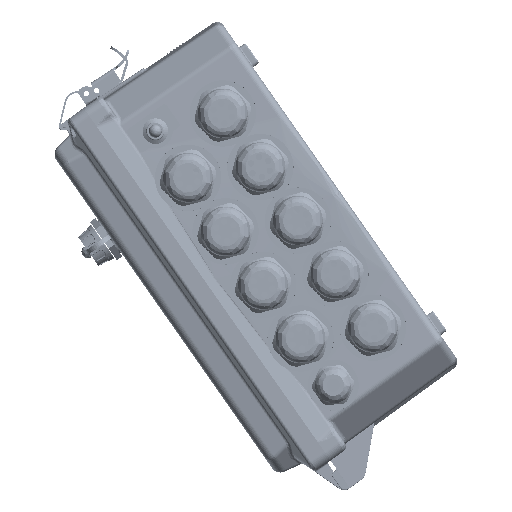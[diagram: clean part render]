
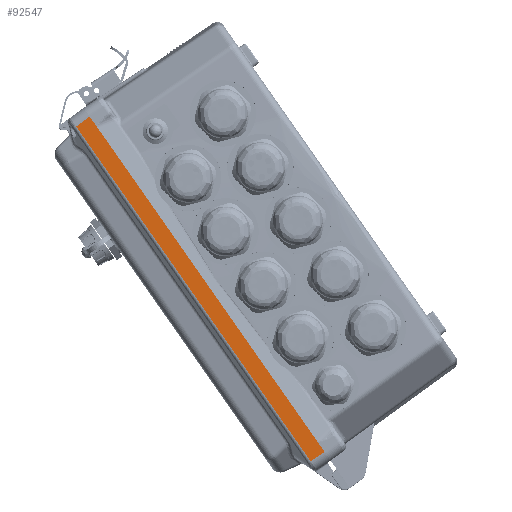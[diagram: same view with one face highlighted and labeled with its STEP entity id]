
A CAD part, left-side view. The second image highlights one B-rep face of the part: STEP entity #92547.
In plain terms, the highlighted planar face has unit normal (-1, 0.021, -0.015).
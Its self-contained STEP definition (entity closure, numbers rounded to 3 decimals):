
#17024 = CARTESIAN_POINT ( 'NONE',  ( -242.9, 203.151, 208.966 ) ) ;
#26754 = DIRECTION ( 'NONE',  ( 0., 0.574, 0.819 ) ) ;
#26879 = LINE ( 'NONE', #462913, #38286 ) ;
#38286 = VECTOR ( 'NONE', #26754, 1000. ) ;
#58011 = VECTOR ( 'NONE', #300720, 1000. ) ;
#84286 = ORIENTED_EDGE ( 'NONE', *, *, #133927, .T. ) ;
#92547 = ADVANCED_FACE ( 'NONE', ( #332541 ), #353717, .T. ) ;
#98618 = ORIENTED_EDGE ( 'NONE', *, *, #378812, .F. ) ;
#119289 = CARTESIAN_POINT ( 'NONE',  ( -242.9, 203.151, 208.966 ) ) ;
#129576 = EDGE_LOOP ( 'NONE', ( #84286, #98618, #303667, #289394 ) ) ;
#133927 = EDGE_CURVE ( 'NONE', #412005, #179055, #452751, .T. ) ;
#135619 = DIRECTION ( 'NONE',  ( -1., 0.021, -0.015 ) ) ;
#148909 = LINE ( 'NONE', #263988, #58011 ) ;
#154104 = EDGE_CURVE ( 'NONE', #415753, #251336, #241351, .T. ) ;
#179055 = VERTEX_POINT ( 'NONE', #283237 ) ;
#232505 = EDGE_CURVE ( 'NONE', #251336, #412005, #26879, .T. ) ;
#241351 = LINE ( 'NONE', #425565, #412302 ) ;
#251336 = VERTEX_POINT ( 'NONE', #271731 ) ;
#263988 = CARTESIAN_POINT ( 'NONE',  ( -242.627, 212.127, 203.579 ) ) ;
#271731 = CARTESIAN_POINT ( 'NONE',  ( -242.9, 57.199, 0.584 ) ) ;
#277336 = DIRECTION ( 'NONE',  ( 0.026, 0.819, -0.573 ) ) ;
#278929 = CARTESIAN_POINT ( 'NONE',  ( -242.9, 35.69, -30.125 ) ) ;
#283237 = CARTESIAN_POINT ( 'NONE',  ( -242.627, 211.547, 202.751 ) ) ;
#289394 = ORIENTED_EDGE ( 'NONE', *, *, #232505, .T. ) ;
#300720 = DIRECTION ( 'NONE',  ( 0., 0.574, 0.819 ) ) ;
#303667 = ORIENTED_EDGE ( 'NONE', *, *, #154104, .T. ) ;
#311515 = DIRECTION ( 'NONE',  ( 0.026, 0.804, -0.595 ) ) ;
#314511 = AXIS2_PLACEMENT_3D ( 'NONE', #278929, #135619, #277336 ) ;
#322280 = CARTESIAN_POINT ( 'NONE',  ( -242.627, 65.909, -5.182 ) ) ;
#332541 = FACE_OUTER_BOUND ( 'NONE', #129576, .T. ) ;
#353717 = PLANE ( 'NONE',  #314511 ) ;
#355918 = VECTOR ( 'NONE', #311515, 1000. ) ;
#378812 = EDGE_CURVE ( 'NONE', #415753, #179055, #148909, .T. ) ;
#412005 = VERTEX_POINT ( 'NONE', #119289 ) ;
#412302 = VECTOR ( 'NONE', #465380, 1000. ) ;
#415753 = VERTEX_POINT ( 'NONE', #322280 ) ;
#425565 = CARTESIAN_POINT ( 'NONE',  ( -242.627, 65.909, -5.182 ) ) ;
#452751 = LINE ( 'NONE', #17024, #355918 ) ;
#462913 = CARTESIAN_POINT ( 'NONE',  ( -242.9, 35.69, -30.125 ) ) ;
#465380 = DIRECTION ( 'NONE',  ( -0.026, -0.834, 0.552 ) ) ;
